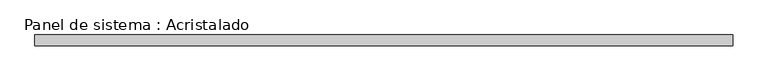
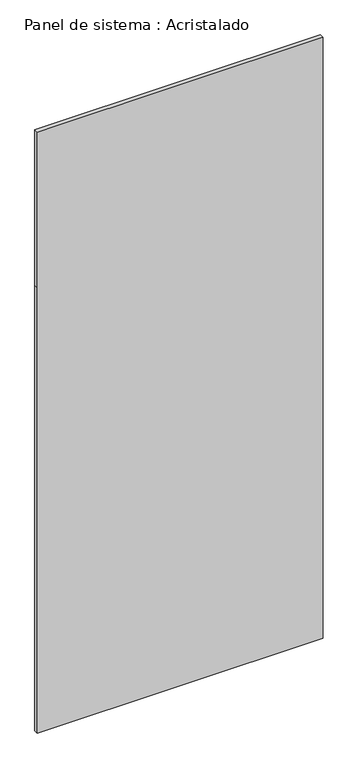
"""IFC4 building model written with IfcOpenShell, lengths in millimetres: plate geometry, Panel de sistema : Acristalado."""

from ifc_helpers import new_model, si_unit, frame, origin, place, context, project, spatial, polyline, outline, extrude, source, transform, mapped, element, save


def panel_de_sistema_acristalado_533c302c(model_context):
    return source(origin(), model_context, "Body", "SweptSolid", [
        extrude(outline(polyline([(0.0, -652.5), (0.0, 652.5), (2150.0, 652.5), (2900.0, 652.5), (2900.0, -652.5), (2150.0, -652.5), (0.0, -652.5)])), frame((0.0, -10.0, 0.0), z_axis=(0.0, 1.0, 0.0), x_axis=(0.0, 0.0, 1.0)), (0.0, 0.0, 1.0), 20.0),
    ])


if __name__ == "__main__":
    model = new_model("IFC4")
    model_context = context("Model", 3, world=origin())
    ifc_project = project(units=[si_unit("LENGTHUNIT", "METRE", prefix="MILLI")], contexts=[model_context])
    site = spatial("IfcSite", under=ifc_project)
    building = spatial("IfcBuilding", under=site)
    placement = place(None, origin())
    panel_de_sistema_acristalado_shape = panel_de_sistema_acristalado_533c302c(model_context)
    element("IfcPlate", 1, ObjectType="Panel de sistema : Acristalado", at=placement, inside=building, context=model_context, shape_type="MappedRepresentation", body=[
        mapped(panel_de_sistema_acristalado_shape, transform((0.0, 0.0, 0.0), x_axis=(1.0, 0.0, 0.0), y_axis=(0.0, 1.0, 0.0), z_axis=(0.0, 0.0, 1.0))),
    ])
    save(model, "model.ifc")
